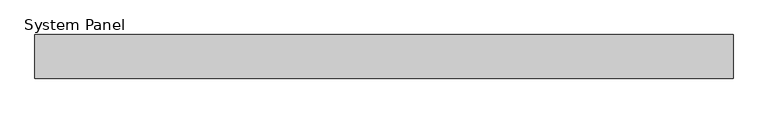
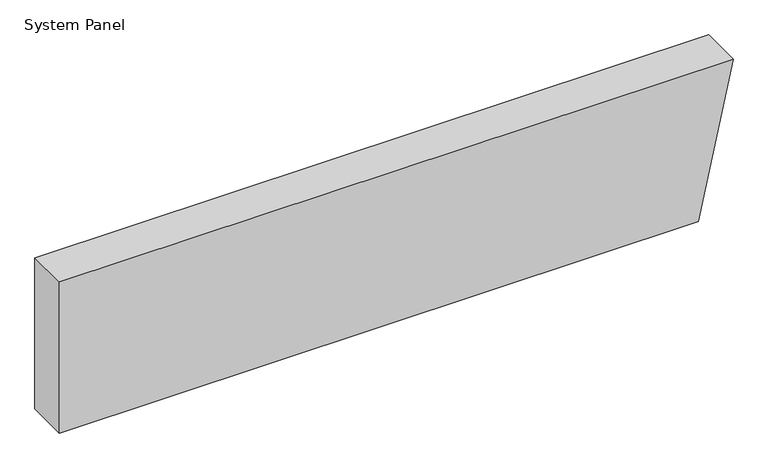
"""IFC4 building model written with IfcOpenShell, lengths in millimetres: plate geometry, System Panel : Inspire 100mm Horizontal - Plain RHEA-PIR."""

from ifc_helpers import new_model, si_unit, frame, origin, place, context, project, spatial, polyline, outline, extrude, source, transform, mapped, element, save


def system_panel_ee7158d6(model_context):
    return source(origin(), model_context, "Body", "SweptSolid", [
        extrude(outline(polyline([(0.0, -800.0), (0.0, 717.3970701), (379.9704237, 800.0), (379.9704237, -800.0), (0.0, -800.0)])), frame((0.0, -100.0, 0.0), z_axis=(0.0, 1.0, 0.0), x_axis=(0.0, 0.0, 1.0)), (0.0, 0.0, 1.0), 100.0),
    ])


if __name__ == "__main__":
    model = new_model("IFC4")
    model_context = context("Model", 3, world=origin())
    ifc_project = project(units=[si_unit("LENGTHUNIT", "METRE", prefix="MILLI")], contexts=[model_context])
    site = spatial("IfcSite", under=ifc_project)
    building = spatial("IfcBuilding", under=site)
    placement = place(None, origin())
    system_panel_shape = system_panel_ee7158d6(model_context)
    element("IfcPlate", 1, ObjectType="System Panel : Inspire 100mm Horizontal - Plain RHEA-PIR", at=placement, inside=building, context=model_context, shape_type="MappedRepresentation", body=[
        mapped(system_panel_shape, transform((0.0, 0.0, 0.0), x_axis=(1.0, 0.0, 0.0), y_axis=(0.0, 1.0, 0.0), z_axis=(0.0, 0.0, 1.0))),
    ])
    save(model, "model.ifc")
